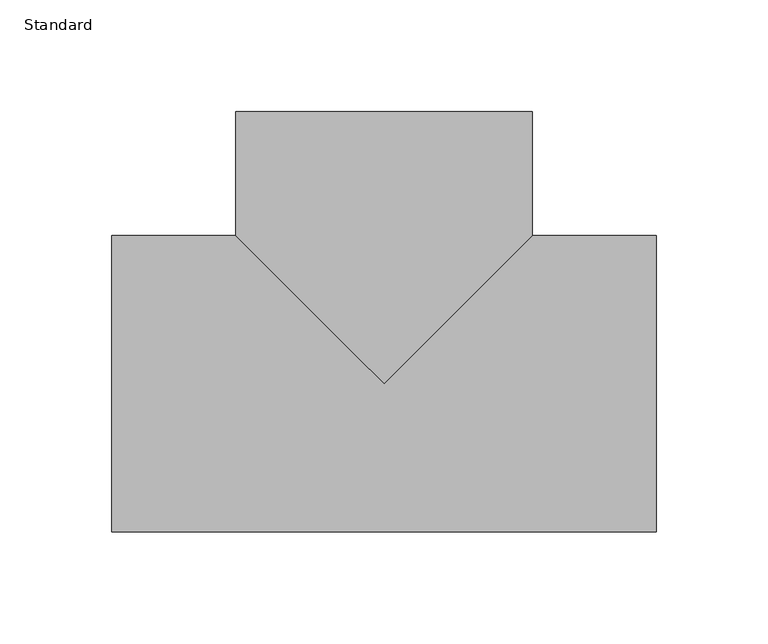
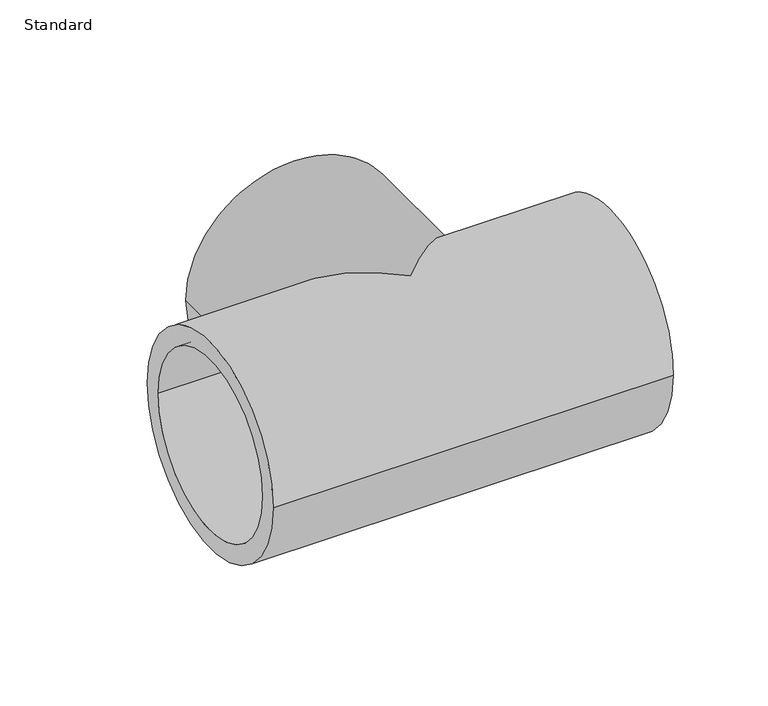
"""IFC4 building model written with IfcOpenShell, lengths in millimetres: pipe fitting geometry, Durapipe_PipeFitting_PVC_Tee90degEqual : Standard."""

import ifcopenshell
import ifcopenshell.guid

model = None  # the IFC model being written
_history = None  # IfcOwnerHistory: only IFC2X3 demands one
_inside = {}  # id of a spatial element -> (the spatial element, [elements in it])
_under = {}  # id of a project, library or spatial element -> (it, [spatial elements below it])
_declared = {}  # id of a project -> (the project, [libraries it declares])
_typed = {}  # id of a type object -> (the type object, [elements of that type])
_made_of = {}  # id of a material, layer set ... -> (it, [elements and type objects made of it])


def new_model(schema):
    """Start an empty IFC model of exactly this schema.

    Asked for "IFC4X3", IfcOpenShell would pick the latest addendum, in which some entities
    have other attributes; the version numbers below select the first issue.
    IFC2X3 requires an IfcOwnerHistory on every rooted entity: one is made here for all.
    """
    global model, _history
    if schema == "IFC4X3":
        model = ifcopenshell.file(schema_version=(4, 3, 0, 0))
    else:
        model = ifcopenshell.file(schema=schema)
    _inside.clear()
    _under.clear()
    _declared.clear()
    _typed.clear()
    _made_of.clear()
    _history = None
    if model.schema == "IFC2X3":
        org = make("IfcOrganization", Name="unknown")
        user = make(
            "IfcPersonAndOrganization",
            ThePerson=make("IfcPerson", FamilyName="unknown"),
            TheOrganization=org,
        )
        app = make(
            "IfcApplication",
            ApplicationDeveloper=org,
            Version="unknown",
            ApplicationFullName="unknown",
            ApplicationIdentifier="unknown",
        )
        _history = make(
            "IfcOwnerHistory",
            OwningUser=user,
            OwningApplication=app,
            ChangeAction="ADDED",
            CreationDate=0,
        )
    return model


def make(cls, **values):
    """One entity of the class cls with the attributes given. An attribute that is None is left unset."""
    return model.create_entity(
        cls, **{name: value for name, value in values.items() if value is not None}
    )


def rooted(cls, **values):
    """An entity with a GlobalId (a new one), such as an element, a storey or a relation."""
    return make(cls, GlobalId=ifcopenshell.guid.new(), OwnerHistory=_history, **values)


def si_unit(unit_type, name, prefix=None):
    """IfcSIUnit, for example si_unit("LENGTHUNIT", "METRE", prefix="MILLI")."""
    return make("IfcSIUnit", UnitType=unit_type, Prefix=prefix, Name=name)


def assignment(units):
    """IfcUnitAssignment: the units of a project."""
    return None if units is None else make("IfcUnitAssignment", Units=units)


def point(xyz):
    """IfcCartesianPoint."""
    return None if xyz is None else make("IfcCartesianPoint", Coordinates=xyz)


def direction(xyz):
    """IfcDirection."""
    return None if xyz is None else make("IfcDirection", DirectionRatios=xyz)


def frame(location, z_axis=None, x_axis=None):
    """IfcAxis2Placement3D, a coordinate frame: its origin and axes. An axis left out is left unset."""
    return make(
        "IfcAxis2Placement3D",
        Location=point(location),
        Axis=direction(z_axis),
        RefDirection=direction(x_axis),
    )


def origin():
    """The frame at (0, 0, 0) with its axes left unset."""
    return frame((0.0, 0.0, 0.0))


def place(relative_to, where):
    """IfcLocalPlacement: puts the frame where relative to a parent placement (None: the world)."""
    return make(
        "IfcLocalPlacement", PlacementRelTo=relative_to, RelativePlacement=where
    )


def context(
    kind, dimensions, precision=None, world=None, true_north=None, identifier=None
):
    """IfcGeometricRepresentationContext, for example the 3D "Model" context."""
    return make(
        "IfcGeometricRepresentationContext",
        ContextIdentifier=identifier,
        ContextType=kind,
        CoordinateSpaceDimension=dimensions,
        Precision=precision,
        WorldCoordinateSystem=world,
        TrueNorth=true_north,
    )


def project(units=None, contexts=None):
    """IfcProject with its units and contexts."""
    return rooted(
        "IfcProject",
        Name="project",
        RepresentationContexts=contexts,
        UnitsInContext=assignment(units),
    )


def spatial(cls, under=None, at=None, **own):
    """A site, building, storey or space (cls), placed at a placement, below another one or the project."""
    s = rooted(cls, ObjectPlacement=at, **own)
    if under is not None:
        _under.setdefault(under.id(), (under, []))[1].append(s)
    return s


def polyline(points):
    """IfcPolyline through the points."""
    return make("IfcPolyline", Points=[point(p) for p in points])


def circle_curve(where, radius):
    """IfcCircle in the frame where."""
    return make("IfcCircle", Position=where, Radius=radius)


def ellipse_curve(where, semi_axis1, semi_axis2):
    """IfcEllipse in the frame where."""
    return make(
        "IfcEllipse", Position=where, SemiAxis1=semi_axis1, SemiAxis2=semi_axis2
    )


def shape(context_of_items, identifier, shape_type, items):
    """IfcShapeRepresentation: the items that make up one representation, for example the "Body"."""
    return make(
        "IfcShapeRepresentation",
        ContextOfItems=context_of_items,
        RepresentationIdentifier=identifier,
        RepresentationType=shape_type,
        Items=items,
    )


def source(mapping_origin, context_of_items, identifier, shape_type, items):
    """IfcRepresentationMap: a shape defined once, which mapped items show again and again."""
    return make(
        "IfcRepresentationMap",
        MappingOrigin=mapping_origin,
        MappedRepresentation=shape(context_of_items, identifier, shape_type, items),
    )


def transform(
    local_origin,
    x_axis=None,
    y_axis=None,
    z_axis=None,
    scale=None,
    scale2=None,
    scale3=None,
    uniform=True,
):
    """IfcCartesianTransformationOperator3D, or its non-uniform kind. x_axis, y_axis, z_axis: its Axis1, 2, 3."""
    if uniform:
        return make(
            "IfcCartesianTransformationOperator3D",
            Axis1=direction(x_axis),
            Axis2=direction(y_axis),
            LocalOrigin=point(local_origin),
            Scale=scale,
            Axis3=direction(z_axis),
        )
    return make(
        "IfcCartesianTransformationOperator3DnonUniform",
        Axis1=direction(x_axis),
        Axis2=direction(y_axis),
        LocalOrigin=point(local_origin),
        Scale=scale,
        Axis3=direction(z_axis),
        Scale2=scale2,
        Scale3=scale3,
    )


def mapped(mapping_source, mapping_target):
    """IfcMappedItem: shows the shape of a source again, moved by a transform."""
    return make(
        "IfcMappedItem", MappingSource=mapping_source, MappingTarget=mapping_target
    )


def made_of(thing, what):
    """Note that an element or type object is made of a material, layer set ...; save() writes the relation."""
    if what is not None:
        _made_of.setdefault(what.id(), (what, []))[1].append(thing)
    return thing


def element(
    cls,
    number,
    at=None,
    inside=None,
    cuts=None,
    type_object=None,
    material=None,
    context=None,
    identifier="Body",
    shape_type=None,
    held_by="IfcProductDefinitionShape",
    body=None,
    shapes=None,
    **own,
):
    """One element of the class cls, such as IfcWall. Its Tag is "e" and its number.

    at: its placement. inside: the storey or other place that contains it. cuts: it is an
    opening in that element (IfcRelVoidsElement). A single representation is given by context,
    identifier, shape_type and body (its items); several are given by shapes. held_by: the class
    of the entity that holds the representations. save() writes the other relations.
    """
    e = rooted(cls, Tag="e%d" % number, ObjectPlacement=at, **own)
    if body is not None:
        shapes = [shape(context, identifier, shape_type, body)]
    if shapes is not None:
        e.Representation = make(held_by, Representations=shapes)
    if inside is not None:
        _inside.setdefault(inside.id(), (inside, []))[1].append(e)
    if cuts is not None:
        rooted(
            "IfcRelVoidsElement", RelatingBuildingElement=cuts, RelatedOpeningElement=e
        )
    if type_object is not None:
        _typed.setdefault(type_object.id(), (type_object, []))[1].append(e)
    return made_of(e, material)


def aggregate(whole, parts):
    """IfcRelAggregates: a whole, such as a stair, and the parts it consists of."""
    return rooted("IfcRelAggregates", RelatingObject=whole, RelatedObjects=parts)


def save(model, path):
    """Write the relations noted so far, then the file.

    IfcRelAggregates (storeys below a building ...), IfcRelContainedInSpatialStructure (elements
    in a storey), IfcRelDefinesByType, IfcRelAssociatesMaterial and IfcRelDeclares: one each for
    every whole, place, type object, material and project.
    """
    for whole, parts in _under.values():
        aggregate(whole, parts)
    for where, things in _inside.values():
        rooted(
            "IfcRelContainedInSpatialStructure",
            RelatedElements=things,
            RelatingStructure=where,
        )
    for kind, things in _typed.values():
        rooted("IfcRelDefinesByType", RelatedObjects=things, RelatingType=kind)
    for what, things in _made_of.values():
        rooted("IfcRelAssociatesMaterial", RelatedObjects=things, RelatingMaterial=what)
    for by, libraries in _declared.values():
        rooted("IfcRelDeclares", RelatingContext=by, RelatedDefinitions=libraries)
    model.write(path)


def plane_surface(at):
    """IfcPlane: the flat surface through the origin of the frame at, square to its z axis."""
    return make("IfcPlane", Position=at)


def cylinder_surface(at, radius):
    """IfcCylindricalSurface: all points at the distance radius from the z axis of the frame at."""
    return make("IfcCylindricalSurface", Position=at, Radius=radius)


def revolved_surface(curve, axis_point, axis_direction):
    """IfcSurfaceOfRevolution: the curve turned about the line through axis_point along axis_direction."""
    return make(
        "IfcSurfaceOfRevolution",
        SweptCurve=make("IfcArbitraryOpenProfileDef", ProfileType="CURVE", Curve=curve),
        AxisPosition=make("IfcAxis1Placement", Location=point(axis_point), Axis=direction(axis_direction)),
    )


def advanced_brep(points, edges, surfaces, faces):
    """IfcAdvancedBrep: a solid bounded by faces that lie on surfaces and meet in shared edges.

    An edge is (start, end): straight between two places in points (the first is 0);
    or (start, end, curve); or (start, end, curve, False) where it runs against its curve.
    A face is (place in surfaces, loops), or (place, loops, False) where it looks against
    its surface's normal. A loop lists edges by number (the first is 1), with a minus sign
    where the edge is run from its end to its start. The first loop is the outer one.
    """
    corners = [point(p) for p in points]
    vertices = [make("IfcVertexPoint", VertexGeometry=c) for c in corners]
    made = []
    for start, end, *more in edges:
        made.append(
            make(
                "IfcEdgeCurve",
                EdgeStart=vertices[start],
                EdgeEnd=vertices[end],
                EdgeGeometry=more[0] if more else make("IfcPolyline", Points=[corners[start], corners[end]]),
                SameSense=more[1] if len(more) > 1 else True,
            )
        )
    hull = []
    for where, loops, *sense in faces:
        bounds = []
        for j, loop in enumerate(loops):
            ring = [make("IfcOrientedEdge", EdgeElement=made[abs(k) - 1], Orientation=k > 0) for k in loop]
            bounds.append(
                make(
                    "IfcFaceOuterBound" if j == 0 else "IfcFaceBound",
                    Bound=make("IfcEdgeLoop", EdgeList=ring),
                    Orientation=True,
                )
            )
        hull.append(make("IfcAdvancedFace", Bounds=bounds, FaceSurface=surfaces[where], SameSense=sense[0] if sense else True))
    return make("IfcAdvancedBrep", Outer=make("IfcClosedShell", CfsFaces=hull))


def standard_6810872d(model_context):
    return source(origin(), model_context, "Body", "AdvancedBrep", [
        advanced_brep(
        [(-66.5, 122.0, 0.0), (66.5, 122.0, 0.0), (-55.0, 122.0, 0.0), (55.0, 122.0, 0.0), (-66.5, 66.5, 0.0), (0.0, 0.0, 66.5), (66.5, 66.5, 0.0), (0.0, 0.0, -66.5), (-122.0, -66.5, 0.0), (-122.0, 66.5, 0.0), (-122.0, -55.0, 0.0), (-122.0, 55.0, 0.0), (122.0, -66.5, 0.0), (122.0, 66.5, 0.0), (122.0, 55.0, 0.0), (122.0, -55.0, 0.0), (55.0, 61.0, 0.0), (-55.0, 61.0, 0.0), (0.0, 61.0, 0.0), (61.0, -55.0, 0.0), (61.0, 55.0, 0.0), (61.0, 0.0, 0.0), (-61.0, -55.0, 0.0), (-61.0, 55.0, 0.0), (-61.0, 0.0, 0.0)],
        [
            (0, 1, circle_curve(frame((0.0, 122.0, 0.0), z_axis=(0.0, 1.0, 0.0), x_axis=(1.0, 0.0, 0.0)), 66.5)),
            (1, 0, circle_curve(frame((0.0, 122.0, 0.0), z_axis=(0.0, 1.0, 0.0), x_axis=(1.0, 0.0, 0.0)), 66.5)),
            (2, 3, circle_curve(frame((0.0, 122.0, 0.0), z_axis=(0.0, -1.0, 0.0), x_axis=(-1.0, 0.0, 0.0)), 55.0)),
            (3, 2, circle_curve(frame((0.0, 122.0, 0.0), z_axis=(0.0, -1.0, 0.0), x_axis=(-1.0, 0.0, 0.0)), 55.0)),
            (0, 4),
            (4, 5, ellipse_curve(frame((0.0, 0.0, 0.0), z_axis=(0.7071067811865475, 0.7071067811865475, 0.0), x_axis=(-0.7071067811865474, 0.7071067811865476, 0.0)), 94.0452019, 66.5)),
            (5, 6, ellipse_curve(frame((0.0, 0.0, 0.0), z_axis=(-0.7071067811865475, 0.7071067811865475, 0.0), x_axis=(0.7071067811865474, 0.7071067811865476, 0.0)), 94.0452019, 66.5)),
            (6, 1),
            (6, 7, ellipse_curve(frame((0.0, 0.0, 0.0), z_axis=(-0.7071067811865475, 0.7071067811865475, 0.0), x_axis=(0.7071067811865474, 0.7071067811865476, 0.0)), 94.0452019, 66.5)),
            (7, 4, ellipse_curve(frame((0.0, 0.0, 0.0), z_axis=(0.7071067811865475, 0.7071067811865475, 0.0), x_axis=(-0.7071067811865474, 0.7071067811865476, 0.0)), 94.0452019, 66.5)),
            (8, 9, circle_curve(frame((-122.0, 0.0, 0.0), z_axis=(-1.0, 0.0, 0.0), x_axis=(0.0, 1.0, 0.0)), 66.5)),
            (9, 8, circle_curve(frame((-122.0, 0.0, 0.0), z_axis=(-1.0, 0.0, 0.0), x_axis=(0.0, 1.0, 0.0)), 66.5)),
            (10, 11, circle_curve(frame((-122.0, 0.0, 0.0), z_axis=(1.0, 0.0, 0.0), x_axis=(0.0, 1.0, 0.0)), 55.0)),
            (11, 10, circle_curve(frame((-122.0, 0.0, 0.0), z_axis=(1.0, 0.0, 0.0), x_axis=(0.0, 1.0, 0.0)), 55.0)),
            (12, 13, circle_curve(frame((122.0, 0.0, 0.0), z_axis=(1.0, 0.0, 0.0), x_axis=(0.0, 1.0, 0.0)), 66.5)),
            (13, 12, circle_curve(frame((122.0, 0.0, 0.0), z_axis=(1.0, 0.0, 0.0), x_axis=(0.0, 1.0, 0.0)), 66.5)),
            (14, 15, circle_curve(frame((122.0, 0.0, 0.0), z_axis=(-1.0, 0.0, 0.0), x_axis=(0.0, 1.0, 0.0)), 55.0)),
            (15, 14, circle_curve(frame((122.0, 0.0, 0.0), z_axis=(-1.0, 0.0, 0.0), x_axis=(0.0, 1.0, 0.0)), 55.0)),
            (8, 12),
            (13, 6),
            (4, 9),
            (16, 3),
            (2, 17),
            (17, 16, circle_curve(frame((0.0, 61.0, 0.0), z_axis=(0.0, -1.0, 0.0), x_axis=(-1.0, 0.0, 0.0)), 55.0)),
            (16, 17, circle_curve(frame((0.0, 61.0, 0.0), z_axis=(0.0, -1.0, 0.0), x_axis=(-1.0, 0.0, 0.0)), 55.0)),
            (17, 18),
            (18, 16),
            (19, 15),
            (14, 20),
            (20, 19, circle_curve(frame((61.0, 0.0, 0.0), z_axis=(-1.0, 0.0, 0.0), x_axis=(0.0, 1.0, 0.0)), 55.0)),
            (19, 20, circle_curve(frame((61.0, 0.0, 0.0), z_axis=(-1.0, 0.0, 0.0), x_axis=(0.0, 1.0, 0.0)), 55.0)),
            (20, 21),
            (21, 19),
            (10, 22),
            (22, 23, circle_curve(frame((-61.0, 0.0, 0.0), z_axis=(1.0, 0.0, 0.0), x_axis=(0.0, 1.0, 0.0)), 55.0)),
            (23, 11),
            (23, 22, circle_curve(frame((-61.0, 0.0, 0.0), z_axis=(1.0, 0.0, 0.0), x_axis=(0.0, 1.0, 0.0)), 55.0)),
            (22, 24),
            (24, 23),
        ],
        [
            plane_surface(frame((0.0, 122.0, 0.0), z_axis=(0.0, 1.0, 0.0), x_axis=(0.0, 0.0, 1.0))),
            cylinder_surface(frame((0.0, 122.0, 0.0), z_axis=(0.0, 1.0, 0.0), x_axis=(1.0, 0.0, 0.0)), 66.5),
            plane_surface(frame((-122.0, 0.0, 0.0), z_axis=(-1.0, 0.0, 0.0), x_axis=(0.0, 0.0, 1.0))),
            plane_surface(frame((122.0, 0.0, 0.0), z_axis=(1.0, 0.0, 0.0), x_axis=(0.0, 0.0, 1.0))),
            cylinder_surface(frame((-122.0, 0.0, 0.0), z_axis=(-1.0, 0.0, 0.0), x_axis=(0.0, 1.0, 0.0)), 66.5),
            revolved_surface(polyline([(-55.0, 61.0, 0.0), (-55.0, 122.0, 0.0)]), (0.0, 2097.0, 0.0), (0.0, -1.0, 0.0)),
            plane_surface(frame((0.0, 61.0, 0.0), z_axis=(0.0, 1.0, 0.0), x_axis=(-1.0, 0.0, 0.0))),
            revolved_surface(polyline([(61.0, 55.0, 0.0), (122.0, 55.0, 0.0)]), (2098.5, 0.0, 0.0), (-1.0, 0.0, 0.0)),
            plane_surface(frame((61.0, 0.0, 0.0), z_axis=(1.0, 0.0, 0.0), x_axis=(0.0, 1.0, 0.0))),
            revolved_surface(polyline([(-122.0, 55.0, 0.0), (-61.0, 55.0, 0.0)]), (2098.5, 0.0, 0.0), (-1.0, 0.0, 0.0)),
            plane_surface(frame((-61.0, 0.0, 0.0), z_axis=(-1.0, 0.0, 0.0), x_axis=(0.0, 1.0, 0.0))),
        ],
        [
            (0, [[1, 2], [3, 4]]),
            (1, [[-1, 5, 6, 7, 8]]),
            (1, [[-2, -8, 9, 10, -5]]),
            (2, [[11, 12], [13, 14]]),
            (3, [[15, 16], [17, 18]]),
            (4, [[-11, 19, -16, 20, -7, -6, 21]]),
            (4, [[-12, -21, -10, -9, -20, -15, -19]]),
            (5, [[22, -3, 23, 24]]),
            (5, [[-22, 25, -23, -4]]),
            (6, [[-24, 26, 27]]),
            (6, [[-25, -27, -26]]),
            (7, [[28, -17, 29, 30]]),
            (7, [[-28, 31, -29, -18]]),
            (8, [[-30, 32, 33]]),
            (8, [[-31, -33, -32]]),
            (9, [[34, 35, 36, -13]]),
            (9, [[-34, -14, -36, 37]]),
            (10, [[-35, 38, 39]]),
            (10, [[-37, -39, -38]]),
        ],
    ),
    ])


if __name__ == "__main__":
    model = new_model("IFC4")
    model_context = context("Model", 3, world=origin())
    ifc_project = project(units=[si_unit("LENGTHUNIT", "METRE", prefix="MILLI")], contexts=[model_context])
    site = spatial("IfcSite", under=ifc_project)
    building = spatial("IfcBuilding", under=site)
    placement = place(None, origin())
    standard_shape = standard_6810872d(model_context)
    element("IfcPipeFitting", 1, ObjectType="Durapipe_PipeFitting_PVC_Tee90degEqual : Standard", at=placement, inside=building, context=model_context, shape_type="MappedRepresentation", body=[
        mapped(standard_shape, transform((0.0, 0.0, 0.0), x_axis=(1.0, 0.0, 0.0), y_axis=(0.0, 1.0, 0.0), z_axis=(0.0, 0.0, 1.0))),
    ])
    save(model, "model.ifc")
